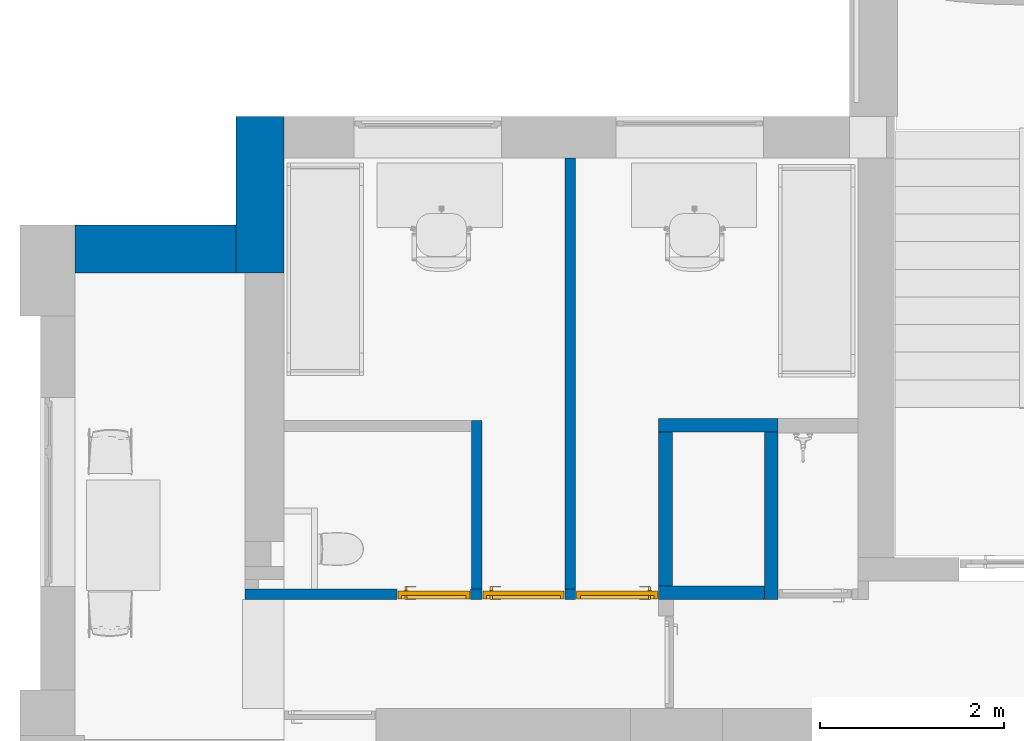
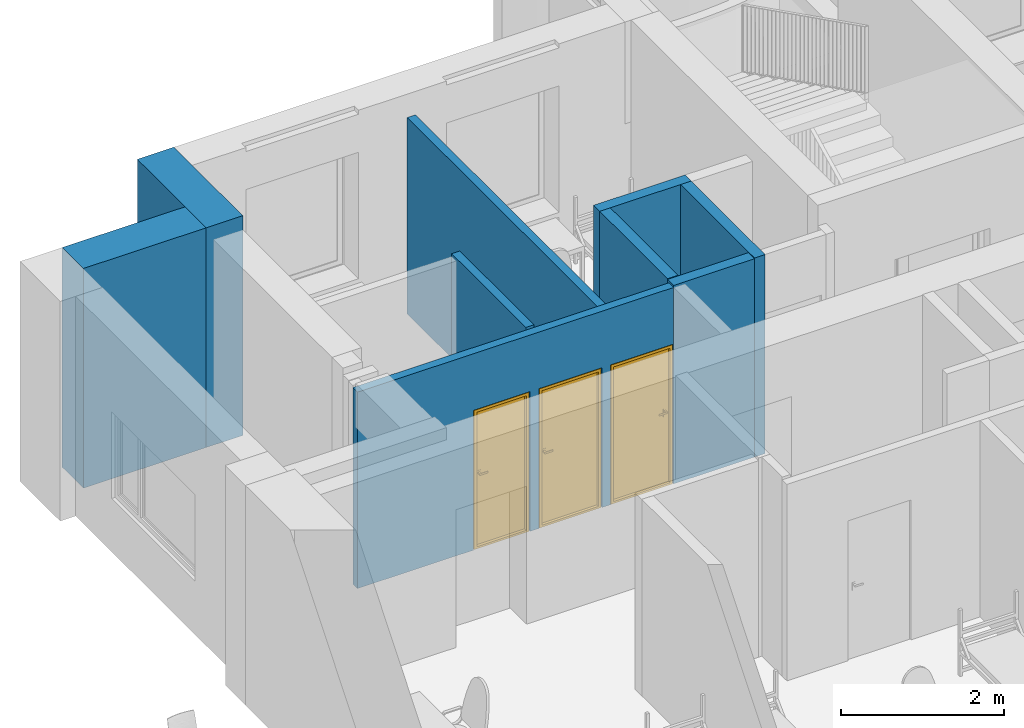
# One storey, part 5 of 48: 9 walls, 3 doors, 6 openings.
"""IFC2X3 building model written with IfcOpenShell, lengths in millimetres."""

from ifc_helpers import new_model, entity, si_unit, converted_unit, derived_unit, direction, frame, frame_2d, origin, place, context, subcontext, project, spatial, rectangle, extrude, faceted_brep, source, transform, mapped, material, material_list, layer, layer_set, layer_usage, type_object, type_shapes, element, fill, save


model = new_model("IFC2X3")

# Units and contexts
model_context = context("Model", 3, precision=0.01, world=origin(), true_north=direction((6.12303176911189e-17, 1.0)))
body_context = subcontext(model_context, "Body", "Model", "MODEL_VIEW")
ifc_project = project(units=[si_unit("LENGTHUNIT", "METRE", prefix="MILLI"), si_unit("AREAUNIT", "SQUARE_METRE"), si_unit("VOLUMEUNIT", "CUBIC_METRE"), converted_unit("PLANEANGLEUNIT", "DEGREE", entity("IfcRatioMeasure", 0.0174532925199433), si_unit("PLANEANGLEUNIT", "RADIAN"), dimensions=[0, 0, 0, 0, 0, 0, 0]), si_unit("MASSUNIT", "GRAM", prefix="KILO"), derived_unit("MASSDENSITYUNIT", [(si_unit("MASSUNIT", "GRAM", prefix="KILO"), 1), (si_unit("LENGTHUNIT", "METRE"), -3)]), si_unit("TIMEUNIT", "SECOND"), si_unit("FREQUENCYUNIT", "HERTZ"), si_unit("THERMODYNAMICTEMPERATUREUNIT", "DEGREE_CELSIUS"), derived_unit("THERMALTRANSMITTANCEUNIT", [(si_unit("MASSUNIT", "GRAM", prefix="KILO"), 1), (si_unit("THERMODYNAMICTEMPERATUREUNIT", "KELVIN"), -1), (si_unit("TIMEUNIT", "SECOND"), -3)]), derived_unit("VOLUMETRICFLOWRATEUNIT", [(si_unit("LENGTHUNIT", "METRE"), 3), (si_unit("TIMEUNIT", "SECOND"), -1)]), si_unit("ELECTRICCURRENTUNIT", "AMPERE"), si_unit("ELECTRICVOLTAGEUNIT", "VOLT"), si_unit("POWERUNIT", "WATT"), si_unit("FORCEUNIT", "NEWTON", prefix="KILO"), si_unit("ILLUMINANCEUNIT", "LUX"), si_unit("LUMINOUSFLUXUNIT", "LUMEN"), si_unit("LUMINOUSINTENSITYUNIT", "CANDELA"), derived_unit("USERDEFINED", [(si_unit("MASSUNIT", "GRAM", prefix="KILO"), -1), (si_unit("LENGTHUNIT", "METRE"), -2), (si_unit("TIMEUNIT", "SECOND"), 3), (si_unit("LUMINOUSFLUXUNIT", "LUMEN"), 1)]), derived_unit("LINEARVELOCITYUNIT", [(si_unit("LENGTHUNIT", "METRE"), 1), (si_unit("TIMEUNIT", "SECOND"), -1)]), si_unit("PRESSUREUNIT", "PASCAL"), derived_unit("USERDEFINED", [(si_unit("LENGTHUNIT", "METRE"), -2), (si_unit("MASSUNIT", "GRAM", prefix="KILO"), 1), (si_unit("TIMEUNIT", "SECOND"), -2)]), derived_unit("LINEARFORCEUNIT", [(si_unit("MASSUNIT", "GRAM", prefix="KILO"), 1), (si_unit("LENGTHUNIT", "METRE"), 1), (si_unit("TIMEUNIT", "SECOND"), -2), (si_unit("LENGTHUNIT", "METRE"), -1)]), derived_unit("PLANARFORCEUNIT", [(si_unit("MASSUNIT", "GRAM", prefix="KILO"), 1), (si_unit("LENGTHUNIT", "METRE"), 1), (si_unit("TIMEUNIT", "SECOND"), -2), (si_unit("LENGTHUNIT", "METRE"), -2)])], contexts=[model_context])

# Site, building, storey
site_placement = place(None, origin())
site = spatial("IfcSite", under=ifc_project, at=site_placement, Name="Default", CompositionType="ELEMENT")
building_placement = place(site_placement, origin())
building = spatial("IfcBuilding", under=site, at=building_placement, Name="SMA ARH", CompositionType="ELEMENT")
storey_placement = place(building_placement, frame((0.0, 0.0, 3300.0)))
storey = spatial("IfcBuildingStorey", under=building, at=storey_placement, Name="2 Korrus", CompositionType="ELEMENT", Elevation=3299.99999999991)

# Walls
ifc_material_1 = material(Name="_ol.olev sein")
ifc_layer_1 = layer(ifc_material_1, 520.0)
ifc_layer_set_1 = layer_set([ifc_layer_1], Name="Basic Wall:Generic - 520mm")
ifc_layer_usage_1 = layer_usage(ifc_layer_set_1, "AXIS2", "NEGATIVE", 260.0)
wall_type_1 = type_object("IfcWallType", Name="Basic Wall:Generic - 520mm", PredefinedType="STANDARD", material=ifc_layer_set_1)
wall_1_placement = place(storey_placement, frame((-100.0, 11510.0, 0.0)))
element("IfcWallStandardCase", 1, at=wall_1_placement, inside=storey, type_object=wall_type_1, material=ifc_layer_usage_1, Name="Basic Wall:Generic - 520mm", ObjectType="Basic Wall:Generic - 520mm", context=body_context, shape_type="SweptSolid", body=[
    extrude(rectangle(XDim=1745.00000000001, YDim=519.999999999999, at=frame_2d((872.500000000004, -8.5265128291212e-14), x_axis=(-1.0, 0.0))), origin(), (0.0, 0.0, 1.0), 3299.99999999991),
])
ifc_layer_usage_2 = layer_usage(ifc_layer_set_1, "AXIS2", "NEGATIVE", 260.0)
wall_2_placement = place(storey_placement, frame((1905.0, 11250.0, 0.0), z_axis=(0.0, 0.0, 1.0), x_axis=(0.0, 1.0, 0.0)))
element("IfcWallStandardCase", 2, at=wall_2_placement, inside=storey, type_object=wall_type_1, material=ifc_layer_usage_2, Name="Basic Wall:Generic - 520mm", ObjectType="Basic Wall:Generic - 520mm", context=body_context, shape_type="SweptSolid", body=[
    extrude(rectangle(XDim=1696.2030428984, YDim=520.0, at=frame_2d((848.101521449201, -8.5265128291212e-14), x_axis=(-1.0, 0.0))), origin(), (0.0, 0.0, 1.0), 3299.99999999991),
])
ifc_material_2 = material(Name="EST. Müüritis. Väikeplokk. Kergkruusplokk")
ifc_layer_2 = layer(ifc_material_2, 150.0)
ifc_layer_set_2 = layer_set([ifc_layer_2], Name="Basic Wall:SS-02_ 150mm šahtide vahesein")
ifc_layer_usage_3 = layer_usage(ifc_layer_set_2, "AXIS2", "POSITIVE", -75.0)
wall_type_2 = type_object("IfcWallType", Name="Basic Wall:SS-02_ 150mm šahtide vahesein", PredefinedType="STANDARD", material=ifc_layer_set_2)
wall_3_placement = place(storey_placement, frame((6235.32130046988, 9595.0, 0.0)))
element("IfcWallStandardCase", 3, at=wall_3_placement, inside=storey, type_object=wall_type_2, material=ifc_layer_usage_3, Name="Basic Wall:SS-02_ 150mm šahtide vahesein", ObjectType="Basic Wall:SS-02_ 150mm šahtide vahesein", context=body_context, shape_type="SweptSolid", body=[
    extrude(rectangle(XDim=1298.40364972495, YDim=150.000000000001, at=frame_2d((649.201824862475, -4.9737991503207e-14), x_axis=(-1.0, 0.0))), origin(), (0.0, 0.0, 1.0), 2989.99999999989),
])

# Wall, opening
ifc_layer_usage_4 = layer_usage(ifc_layer_set_2, "AXIS2", "POSITIVE", -75.0)
wall_4_placement = place(storey_placement, frame((7458.72495019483, 9520.0, 0.0), z_axis=(0.0, 0.0, 1.0), x_axis=(0.0, -1.0, 0.0)))
wall_4 = element("IfcWallStandardCase", 4, at=wall_4_placement, inside=storey, type_object=wall_type_2, material=ifc_layer_usage_4, Name="Basic Wall:SS-02_ 150mm šahtide vahesein", ObjectType="Basic Wall:SS-02_ 150mm šahtide vahesein", context=body_context, shape_type="SweptSolid", body=[
    extrude(rectangle(XDim=1819.99999999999, YDim=150.000000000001, at=frame_2d((909.999999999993, 1.13686837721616e-13), x_axis=(-1.0, 0.0))), origin(), (0.0, 0.0, 1.0), 2989.99999999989),
])
opening_1_placement = place(wall_4_placement, origin())
element("IfcOpeningElement", 5, at=opening_1_placement, cuts=wall_4, Name="Basic Wall:SS-02_ 150mm šahtide vahesein", ObjectType="Opening", context=body_context, shape_type="SweptSolid", body=[
    extrude(rectangle(XDim=2099.99999999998, YDim=116.0, at=frame_2d((0.0, -3.41060513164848e-13), x_axis=(0.0, 1.0))), frame((1762.0, 75.0, 1050.0), z_axis=(0.0, 1.0, 0.0), x_axis=(1.0, 0.0, 0.0)), (0.0, 0.0, 1.0), 800.0),
])

ifc_layer_usage_5 = layer_usage(ifc_layer_set_2, "AXIS2", "POSITIVE", -75.0)
wall_5_placement = place(storey_placement, frame((7383.72495019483, 7775.0, 0.0), z_axis=(0.0, 0.0, 1.0), x_axis=(-1.0, 0.0, 0.0)))
wall_5 = element("IfcWallStandardCase", 6, at=wall_5_placement, inside=storey, type_object=wall_type_2, material=ifc_layer_usage_5, Name="Basic Wall:SS-02_ 150mm šahtide vahesein", ObjectType="Basic Wall:SS-02_ 150mm šahtide vahesein", context=body_context, shape_type="SweptSolid", body=[
    extrude(rectangle(XDim=1148.40364972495, YDim=150.000000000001, at=frame_2d((574.201824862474, 2.41584530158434e-13), x_axis=(-1.0, 0.0))), origin(), (0.0, 0.0, 1.0), 2979.99999999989),
])
opening_2_placement = place(wall_5_placement, origin())
element("IfcOpeningElement", 7, at=opening_2_placement, cuts=wall_5, Name="Basic Wall:SS-02_ 150mm šahtide vahesein", ObjectType="Opening", context=body_context, shape_type="SweptSolid", body=[
    extrude(rectangle(XDim=2099.99999999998, YDim=900.0, at=frame_2d((5.40012479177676e-13, 0.0), x_axis=(0.0, 1.0))), frame((1598.40364972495, -1449.0, 1050.0), z_axis=(0.0, 1.0, 0.0), x_axis=(-1.0, 0.0, 0.0)), (0.0, 0.0, 1.0), 3048.0),
])

ifc_layer_usage_6 = layer_usage(ifc_layer_set_2, "AXIS2", "POSITIVE", -75.0)
wall_6_placement = place(storey_placement, frame((6310.32130046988, 7850.0, 0.0), z_axis=(0.0, 0.0, 1.0), x_axis=(0.0, 1.0, 0.0)))
wall_6 = element("IfcWallStandardCase", 8, at=wall_6_placement, inside=storey, type_object=wall_type_2, material=ifc_layer_usage_6, Name="Basic Wall:SS-02_ 150mm šahtide vahesein", ObjectType="Basic Wall:SS-02_ 150mm šahtide vahesein", context=body_context, shape_type="SweptSolid", body=[
    extrude(rectangle(XDim=1669.99999999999, YDim=150.000000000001, at=frame_2d((834.999999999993, 0.0), x_axis=(-1.0, 0.0))), origin(), (0.0, 0.0, 1.0), 2989.99999999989),
])
opening_3_placement = place(wall_6_placement, origin())
element("IfcOpeningElement", 9, at=opening_3_placement, cuts=wall_6, Name="Basic Wall:SS-02_ 150mm šahtide vahesein", ObjectType="Opening", context=body_context, shape_type="SweptSolid", body=[
    extrude(rectangle(XDim=2099.99999999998, YDim=116.0, at=frame_2d((0.0, 0.0), x_axis=(0.0, 1.0))), frame((-92.0, 75.0, 1050.0), z_axis=(0.0, 1.0, 0.0), x_axis=(-1.0, 0.0, 0.0)), (0.0, 0.0, 1.0), 900.0),
])

# Wall, openings, doors
ifc_material_3 = material(Name="EST. Ehitusplaat. Kipsplaat")
ifc_layer_3 = layer(ifc_material_3, 12.5)
ifc_layer_4 = layer(ifc_material_3, 12.5)
ifc_material_4 = material(Name="EST. Soojustus. Mineraalvill. Default")
ifc_layer_5 = layer(ifc_material_4, 66.0)
ifc_layer_6 = layer(ifc_material_3, 12.5)
ifc_layer_7 = layer(ifc_material_3, 12.5)
ifc_layer_set_3 = layer_set([ifc_layer_3, ifc_layer_4, ifc_layer_5, ifc_layer_6, ifc_layer_7], Name="Basic Wall:SS-05_Kips, 66mm metallkarkass")
ifc_layer_usage_7 = layer_usage(ifc_layer_set_3, "AXIS2", "NEGATIVE", 58.0)
wall_type_3 = type_object("IfcWallType", Name="Basic Wall:SS-05_Kips, 66mm metallkarkass", PredefinedType="STANDARD", material=ifc_layer_set_3)
wall_7_placement = place(storey_placement, frame((6235.32130046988, 7758.0, 0.0), z_axis=(0.0, 0.0, 1.0), x_axis=(-1.0, 0.0, 0.0)))
wall_7 = element("IfcWallStandardCase", 10, at=wall_7_placement, inside=storey, type_object=wall_type_3, material=ifc_layer_usage_7, Name="Basic Wall:SS-05_Kips, 66mm metallkarkass", ObjectType="Basic Wall:SS-05_Kips, 66mm metallkarkass", context=body_context, shape_type="SweptSolid", body=[
    extrude(rectangle(XDim=4490.32130046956, YDim=116.0, at=frame_2d((2245.16065023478, 1.4210854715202e-14), x_axis=(-1.0, 0.0))), origin(), (0.0, 0.0, 1.0), 2949.99999999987),
])
opening_4_placement = place(wall_7_placement, frame((900.0, 58.0, 0.0)))
opening_4 = element("IfcOpeningElement", 11, at=opening_4_placement, cuts=wall_7, Name="SMA_D01, 1-poolne:SU-P-05 - 900x2100 TUBA:1", ObjectType="Opening", context=body_context, shape_type="SweptSolid", body=[
    extrude(rectangle(XDim=2099.99999999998, YDim=900.0, at=frame_2d((1049.99999999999, 450.0), x_axis=(1.0, 0.0))), frame((0.0, 0.0, 0.0), z_axis=(0.0, -1.0, 0.0), x_axis=(0.0, 0.0, 1.0)), (0.0, 0.0, 1.0), 116.0),
])
opening_5_placement = place(wall_7_placement, frame((1916.0, 58.0, 0.0)))
opening_5 = element("IfcOpeningElement", 12, at=opening_5_placement, cuts=wall_7, Name="SMA_D01, 1-poolne:SU-P-05 - 900x2100 TUBA:1", ObjectType="Opening", context=body_context, shape_type="SweptSolid", body=[
    extrude(rectangle(XDim=2099.99999999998, YDim=900.0, at=frame_2d((1049.99999999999, 450.0), x_axis=(1.0, 0.0))), frame((0.0, 0.0, 0.0), z_axis=(0.0, -1.0, 0.0), x_axis=(0.0, 0.0, 1.0)), (0.0, 0.0, 1.0), 116.0),
])
opening_6_placement = place(wall_7_placement, frame((2840.0, 58.0, 0.0)))
opening_6 = element("IfcOpeningElement", 13, at=opening_6_placement, cuts=wall_7, Name="SMA_D01, 1-poolne:SU-P-06 - 800x2100 DUŠŠ:1", ObjectType="Opening", context=body_context, shape_type="SweptSolid", body=[
    extrude(rectangle(XDim=2099.99999999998, YDim=800.0, at=frame_2d((1049.99999999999, 400.0), x_axis=(1.0, 0.0))), frame((0.0, 0.0, 0.0), z_axis=(0.0, -1.0, 0.0), x_axis=(0.0, 0.0, 1.0)), (0.0, 0.0, 1.0), 116.0),
])
ifc_material_5 = material(Name="EST. Metall. Alumiinium. Värvitud. RAL7023 (Concrete grey)")
ifc_material_6 = material(Name="<Unnamed>")
ifc_material_7 = material(Name="EST. Klaas. 3x. Default")
ifc_material_list_1 = material_list([ifc_material_5, ifc_material_6, ifc_material_5, ifc_material_6, ifc_material_6, ifc_material_7, ifc_material_5])
door_style_1 = type_object("IfcDoorStyle", Name="SMA_D01, 1-poolne:SU-P-05 - 900x2100 TUBA", ConstructionType="NOTDEFINED", OperationType="SINGLE_SWING_LEFT", ParameterTakesPrecedence=False, Sizeable=False, material=ifc_material_list_1)
shared_shape_1 = source(origin(), body_context, "Body", "Brep", [
    faceted_brep([(790.0, 6.0, 1112.5), (695.0, 6.0, 1112.5), (695.0, 1.0, 1112.5), (815.0, 1.0, 1112.5), (815.0, 44.0, 1112.5), (790.0, 44.0, 1112.5), (790.0, 6.0, 1087.5), (790.0, 44.0, 1087.5), (815.0, 44.0, 1087.5), (815.0, 1.0, 1087.5), (695.0, 1.0, 1087.5), (695.0, 6.0, 1087.5)], [[[0, 1, 2, 3, 4, 5]], [[6, 7, 8, 9, 10, 11]], [[5, 7, 6, 0]], [[4, 8, 7, 5]], [[3, 9, 8, 4]], [[2, 10, 9, 3]], [[1, 11, 10, 2]], [[0, 6, 11, 1]]]),
    faceted_brep([(777.500000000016, 44.0, 1137.5), (827.500000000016, 44.0, 1137.5), (827.500000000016, 46.0, 1137.5), (777.500000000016, 46.0, 1137.5), (777.500000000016, 44.0, 1017.5), (777.500000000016, 46.0, 1017.5), (827.500000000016, 46.0, 1017.5), (827.500000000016, 44.0, 1017.5)], [[[0, 1, 2, 3]], [[4, 5, 6, 7]], [[3, 5, 4, 0]], [[2, 6, 5, 3]], [[1, 7, 6, 2]], [[0, 4, 7, 1]]]),
    faceted_brep([(790.0, 136.0, 1112.5), (790.0, 98.0, 1112.5), (815.0, 98.0, 1112.5), (815.0, 141.0, 1112.5), (695.0, 141.0, 1112.5), (695.0, 136.0, 1112.5), (790.0, 136.0, 1087.5), (695.0, 136.0, 1087.5), (695.0, 141.0, 1087.5), (815.0, 141.0, 1087.5), (815.0, 98.0, 1087.5), (790.0, 98.0, 1087.5)], [[[0, 1, 2, 3, 4, 5]], [[6, 7, 8, 9, 10, 11]], [[1, 0, 6, 11]], [[2, 1, 11, 10]], [[3, 2, 10, 9]], [[4, 3, 9, 8]], [[5, 4, 8, 7]], [[0, 5, 7, 6]]]),
    faceted_brep([(777.500000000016, 98.0, 1137.5), (777.500000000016, 96.0, 1137.5), (827.500000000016, 96.0, 1137.5), (827.500000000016, 98.0, 1137.5), (777.500000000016, 98.0, 1017.5), (827.500000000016, 98.0, 1017.5), (827.500000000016, 96.0, 1017.5), (777.500000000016, 96.0, 1017.5)], [[[0, 1, 2, 3]], [[4, 5, 6, 7]], [[1, 0, 4, 7]], [[2, 1, 7, 6]], [[3, 2, 6, 5]], [[0, 3, 5, 4]]]),
    faceted_brep([(50.0, 6.0, 30.0), (50.0, 46.0, 30.0), (50.0, 46.0, 20.0), (50.0, 46.0, 0.0), (50.0, 6.0, 0.0), (850.0, 6.0, 30.0), (850.0, 6.0, 0.0), (850.0, 46.0, 0.0), (850.0, 46.0, 20.0), (850.0, 46.0, 30.0), (35.0, 46.0, 0.0), (35.0, 96.0, 0.0), (865.0, 96.0, 0.0), (865.0, 46.0, 0.0), (35.0, 96.0, 20.0), (35.0, 46.0, 20.0), (865.0, 96.0, 20.0), (865.0, 46.0, 20.0)], [[[0, 1, 2, 3, 4]], [[5, 6, 7, 8, 9]], [[4, 6, 5, 0]], [[3, 10, 11, 12, 13, 7, 6, 4]], [[9, 8, 2, 1]], [[0, 5, 9, 1]], [[14, 11, 10, 15]], [[16, 17, 13, 12]], [[15, 2, 8, 17, 16, 14]], [[10, 3, 2, 15]], [[14, 16, 12, 11]], [[17, 8, 7, 13]]]),
    faceted_brep([(10.0, 6.0, 0.0), (10.0, 96.0, 0.0), (35.0, 96.0, 0.0), (35.0, 46.0, 0.0), (50.0, 46.0, 0.0), (50.0, 6.0, 0.0), (50.0, 6.0, 2050.0), (850.0, 6.0, 2050.0), (850.0, 6.0, 0.0), (890.0, 6.0, 0.0), (890.0, 6.0, 2090.0), (10.0, 6.0, 2090.0), (50.0, 46.0, 2050.0), (35.0, 46.0, 2065.0), (865.0, 46.0, 2065.0), (865.0, 46.0, 0.0), (850.0, 46.0, 0.0), (850.0, 46.0, 2050.0), (35.0, 96.0, 2065.0), (10.0, 96.0, 2090.0), (890.0, 96.0, 2090.0), (890.0, 96.0, 0.0), (865.0, 96.0, 0.0), (865.0, 96.0, 2065.0)], [[[0, 1, 2, 3, 4, 5]], [[5, 6, 7, 8, 9, 10, 11, 0]], [[4, 12, 6, 5]], [[3, 13, 14, 15, 16, 17, 12, 4]], [[2, 18, 13, 3]], [[1, 19, 20, 21, 22, 23, 18, 2]], [[0, 11, 19, 1]], [[9, 21, 20, 10]], [[8, 16, 15, 22, 21, 9]], [[7, 17, 16, 8]], [[14, 23, 22, 15]], [[6, 12, 17, 7]], [[13, 18, 23, 14]], [[10, 20, 19, 11]]]),
    faceted_brep([(865.0, 46.0, 2065.0), (35.0, 46.0, 2065.0), (35.0, 46.0, 20.0), (865.0, 46.0, 20.0), (865.0, 96.0, 2065.0), (865.0, 96.0, 20.0), (35.0, 96.0, 20.0), (35.0, 96.0, 2065.0)], [[[0, 1, 2, 3]], [[4, 5, 6, 7]], [[3, 5, 4, 0]], [[2, 6, 5, 3]], [[1, 7, 6, 2]], [[0, 4, 7, 1]]]),
])
type_shapes(door_style_1, [shared_shape_1])
door_1_placement = place(opening_4_placement, frame((0.0, 0.0, 0.0), z_axis=(0.0, 0.0, 1.0), x_axis=(-1.0, 0.0, 0.0)))
door_1 = element("IfcDoor", 14, at=door_1_placement, inside=storey, type_object=door_style_1, material=ifc_material_5, Name="SMA_D01, 1-poolne:SU-P-05 - 900x2100 TUBA", ObjectType="SMA_D01, 1-poolne:SU-P-05 - 900x2100 TUBA", OverallHeight=2099.99999999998, OverallWidth=900.0, context=body_context, shape_type="MappedRepresentation", body=[
    mapped(shared_shape_1, transform((0.0, 0.0, 0.0), scale=1.0)),
])
fill(opening_4, door_1)
ifc_material_list_2 = material_list([ifc_material_6, ifc_material_7, ifc_material_6, ifc_material_5, ifc_material_5, ifc_material_5, ifc_material_6])
door_style_2 = type_object("IfcDoorStyle", Name="SMA_D01, 1-poolne:SU-P-05 - 900x2100 TUBA", ConstructionType="NOTDEFINED", OperationType="SINGLE_SWING_RIGHT", ParameterTakesPrecedence=False, Sizeable=False, material=ifc_material_list_2)
shared_shape_2 = source(origin(), body_context, "Body", "Brep", [
    faceted_brep([(110.0, 6.0, 1112.5), (110.0, 44.0, 1112.5), (85.0, 44.0, 1112.5), (85.0, 1.0, 1112.5), (205.0, 1.0, 1112.5), (205.0, 6.0, 1112.5), (110.0, 6.0, 1087.5), (205.0, 6.0, 1087.5), (205.0, 1.0, 1087.5), (85.0, 1.0, 1087.5), (85.0, 44.0, 1087.5), (110.0, 44.0, 1087.5)], [[[0, 1, 2, 3, 4, 5]], [[6, 7, 8, 9, 10, 11]], [[1, 0, 6, 11]], [[2, 1, 11, 10]], [[3, 2, 10, 9]], [[4, 3, 9, 8]], [[5, 4, 8, 7]], [[0, 5, 7, 6]]]),
    faceted_brep([(122.5, 44.0, 1137.5), (122.5, 46.0, 1137.5), (72.5000000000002, 46.0, 1137.5), (72.5000000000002, 44.0, 1137.5), (122.5, 44.0, 1017.5), (72.5000000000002, 44.0, 1017.5), (72.5000000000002, 46.0, 1017.5), (122.5, 46.0, 1017.5)], [[[0, 1, 2, 3]], [[4, 5, 6, 7]], [[1, 0, 4, 7]], [[2, 1, 7, 6]], [[3, 2, 6, 5]], [[0, 3, 5, 4]]]),
    faceted_brep([(110.0, 136.0, 1112.5), (205.0, 136.0, 1112.5), (205.0, 141.0, 1112.5), (85.0, 141.0, 1112.5), (85.0, 98.0, 1112.5), (110.0, 98.0, 1112.5), (110.0, 136.0, 1087.5), (110.0, 98.0, 1087.5), (85.0, 98.0, 1087.5), (85.0, 141.0, 1087.5), (205.0, 141.0, 1087.5), (205.0, 136.0, 1087.5)], [[[0, 1, 2, 3, 4, 5]], [[6, 7, 8, 9, 10, 11]], [[5, 7, 6, 0]], [[4, 8, 7, 5]], [[3, 9, 8, 4]], [[2, 10, 9, 3]], [[1, 11, 10, 2]], [[0, 6, 11, 1]]]),
    faceted_brep([(122.5, 98.0, 1137.5), (72.5000000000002, 98.0, 1137.5), (72.5000000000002, 96.0, 1137.5), (122.5, 96.0, 1137.5), (122.5, 98.0, 1017.5), (122.5, 96.0, 1017.5), (72.5000000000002, 96.0, 1017.5), (72.5000000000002, 98.0, 1017.5)], [[[0, 1, 2, 3]], [[4, 5, 6, 7]], [[3, 5, 4, 0]], [[2, 6, 5, 3]], [[1, 7, 6, 2]], [[0, 4, 7, 1]]]),
    faceted_brep([(850.0, 6.0, 30.0), (850.0, 6.0, 0.0), (850.0, 46.0, 0.0), (850.0, 46.0, 20.0), (850.0, 46.0, 30.0), (50.0, 6.0, 30.0), (50.0, 46.0, 30.0), (50.0, 46.0, 20.0), (50.0, 46.0, 0.0), (50.0, 6.0, 0.0), (35.0, 46.0, 0.0), (35.0, 96.0, 0.0), (865.0, 96.0, 0.0), (865.0, 46.0, 0.0), (865.0, 96.0, 20.0), (865.0, 46.0, 20.0), (35.0, 96.0, 20.0), (35.0, 46.0, 20.0)], [[[0, 1, 2, 3, 4]], [[5, 6, 7, 8, 9]], [[1, 0, 5, 9]], [[2, 1, 9, 8, 10, 11, 12, 13]], [[6, 4, 3, 7]], [[0, 4, 6, 5]], [[14, 15, 13, 12]], [[16, 11, 10, 17]], [[15, 14, 16, 17, 7, 3]], [[13, 15, 3, 2]], [[14, 12, 11, 16]], [[17, 10, 8, 7]]]),
    faceted_brep([(890.0, 6.0, 0.0), (850.0, 6.0, 0.0), (850.0, 46.0, 0.0), (865.0, 46.0, 0.0), (865.0, 96.0, 0.0), (890.0, 96.0, 0.0), (890.0, 6.0, 2090.0), (10.0, 6.0, 2090.0), (10.0, 6.0, 0.0), (50.0, 6.0, 0.0), (50.0, 6.0, 2050.0), (850.0, 6.0, 2050.0), (850.0, 46.0, 2050.0), (50.0, 46.0, 2050.0), (50.0, 46.0, 0.0), (35.0, 46.0, 0.0), (35.0, 46.0, 2065.0), (865.0, 46.0, 2065.0), (865.0, 96.0, 2065.0), (35.0, 96.0, 2065.0), (35.0, 96.0, 0.0), (10.0, 96.0, 0.0), (10.0, 96.0, 2090.0), (890.0, 96.0, 2090.0)], [[[0, 1, 2, 3, 4, 5]], [[1, 0, 6, 7, 8, 9, 10, 11]], [[2, 1, 11, 12]], [[3, 2, 12, 13, 14, 15, 16, 17]], [[4, 3, 17, 18]], [[5, 4, 18, 19, 20, 21, 22, 23]], [[0, 5, 23, 6]], [[8, 7, 22, 21]], [[9, 8, 21, 20, 15, 14]], [[10, 9, 14, 13]], [[16, 15, 20, 19]], [[11, 10, 13, 12]], [[17, 16, 19, 18]], [[7, 6, 23, 22]]]),
    faceted_brep([(35.0, 46.0, 2065.0), (35.0, 46.0, 20.0), (865.0, 46.0, 20.0), (865.0, 46.0, 2065.0), (35.0, 96.0, 2065.0), (865.0, 96.0, 2065.0), (865.0, 96.0, 20.0), (35.0, 96.0, 20.0)], [[[0, 1, 2, 3]], [[4, 5, 6, 7]], [[1, 0, 4, 7]], [[2, 1, 7, 6]], [[3, 2, 6, 5]], [[0, 3, 5, 4]]]),
])
type_shapes(door_style_2, [shared_shape_2])
door_2_placement = place(opening_5_placement, frame((0.0, 0.0, 0.0), z_axis=(0.0, 0.0, 1.0), x_axis=(-1.0, 0.0, 0.0)))
door_2 = element("IfcDoor", 15, at=door_2_placement, inside=storey, type_object=door_style_2, material=ifc_material_5, Name="SMA_D01, 1-poolne:SU-P-05 - 900x2100 TUBA", ObjectType="SMA_D01, 1-poolne:SU-P-05 - 900x2100 TUBA", OverallHeight=2099.99999999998, OverallWidth=900.0, context=body_context, shape_type="MappedRepresentation", body=[
    mapped(shared_shape_2, transform((0.0, 0.0, 0.0), scale=1.0)),
])
fill(opening_5, door_2)
ifc_material_list_3 = material_list([ifc_material_5, ifc_material_7, ifc_material_6, ifc_material_6, ifc_material_5, ifc_material_6, ifc_material_5])
door_style_3 = type_object("IfcDoorStyle", Name="SMA_D01, 1-poolne:SU-P-06 - 800x2100 DUŠŠ", ConstructionType="NOTDEFINED", OperationType="NOTDEFINED", ParameterTakesPrecedence=False, Sizeable=False, material=ifc_material_list_3)
shared_shape_3 = source(origin(), body_context, "Body", "Brep", [
    faceted_brep([(110.0, 6.0, 1112.5), (110.0, 44.0, 1112.5), (85.0, 44.0, 1112.5), (85.0, 1.0, 1112.5), (205.0, 1.0, 1112.5), (205.0, 6.0, 1112.5), (110.0, 6.0, 1087.5), (205.0, 6.0, 1087.5), (205.0, 1.0, 1087.5), (85.0, 1.0, 1087.5), (85.0, 44.0, 1087.5), (110.0, 44.0, 1087.5)], [[[0, 1, 2, 3, 4, 5]], [[6, 7, 8, 9, 10, 11]], [[1, 0, 6, 11]], [[2, 1, 11, 10]], [[3, 2, 10, 9]], [[4, 3, 9, 8]], [[5, 4, 8, 7]], [[0, 5, 7, 6]]]),
    faceted_brep([(122.5, 44.0, 1137.5), (122.5, 46.0, 1137.5), (72.4999999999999, 46.0, 1137.5), (72.4999999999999, 44.0, 1137.5), (122.5, 44.0, 1017.5), (72.4999999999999, 44.0, 1017.5), (72.4999999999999, 46.0, 1017.5), (122.5, 46.0, 1017.5)], [[[0, 1, 2, 3]], [[4, 5, 6, 7]], [[1, 0, 4, 7]], [[2, 1, 7, 6]], [[3, 2, 6, 5]], [[0, 3, 5, 4]]]),
    faceted_brep([(110.0, 136.0, 1112.5), (205.0, 136.0, 1112.5), (205.0, 141.0, 1112.5), (85.0, 141.0, 1112.5), (85.0, 98.0, 1112.5), (110.0, 98.0, 1112.5), (110.0, 136.0, 1087.5), (110.0, 98.0, 1087.5), (85.0, 98.0, 1087.5), (85.0, 141.0, 1087.5), (205.0, 141.0, 1087.5), (205.0, 136.0, 1087.5)], [[[0, 1, 2, 3, 4, 5]], [[6, 7, 8, 9, 10, 11]], [[5, 7, 6, 0]], [[4, 8, 7, 5]], [[3, 9, 8, 4]], [[2, 10, 9, 3]], [[1, 11, 10, 2]], [[0, 6, 11, 1]]]),
    faceted_brep([(122.5, 98.0, 1137.5), (72.4999999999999, 98.0, 1137.5), (72.4999999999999, 96.0, 1137.5), (122.5, 96.0, 1137.5), (122.5, 98.0, 1017.5), (122.5, 96.0, 1017.5), (72.4999999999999, 96.0, 1017.5), (72.4999999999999, 98.0, 1017.5)], [[[0, 1, 2, 3]], [[4, 5, 6, 7]], [[3, 5, 4, 0]], [[2, 6, 5, 3]], [[1, 7, 6, 2]], [[0, 4, 7, 1]]]),
    faceted_brep([(750.0, 6.0, 30.0), (750.0, 6.0, 0.0), (750.0, 46.0, 0.0), (750.0, 46.0, 20.0), (750.0, 46.0, 30.0), (50.0, 6.0, 30.0), (50.0, 46.0, 30.0), (50.0, 46.0, 20.0), (50.0, 46.0, 0.0), (50.0, 6.0, 0.0), (35.0, 46.0, 0.0), (35.0, 96.0, 0.0), (765.0, 96.0, 0.0), (765.0, 46.0, 0.0), (765.0, 96.0, 20.0), (765.0, 46.0, 20.0), (35.0, 96.0, 20.0), (35.0, 46.0, 20.0)], [[[0, 1, 2, 3, 4]], [[5, 6, 7, 8, 9]], [[1, 0, 5, 9]], [[2, 1, 9, 8, 10, 11, 12, 13]], [[6, 4, 3, 7]], [[0, 4, 6, 5]], [[14, 15, 13, 12]], [[16, 11, 10, 17]], [[15, 14, 16, 17, 7, 3]], [[13, 15, 3, 2]], [[14, 12, 11, 16]], [[17, 10, 8, 7]]]),
    faceted_brep([(790.0, 6.0, 0.0), (750.0, 6.0, 0.0), (750.0, 46.0, 0.0), (765.0, 46.0, 0.0), (765.0, 96.0, 0.0), (790.0, 96.0, 0.0), (790.0, 6.0, 2090.0), (10.0, 6.0, 2090.0), (10.0, 6.0, 0.0), (50.0, 6.0, 0.0), (50.0, 6.0, 2050.0), (750.0, 6.0, 2050.0), (750.0, 46.0, 2050.0), (50.0, 46.0, 2050.0), (50.0, 46.0, 0.0), (35.0, 46.0, 0.0), (35.0, 46.0, 2065.0), (765.0, 46.0, 2065.0), (765.0, 96.0, 2065.0), (35.0, 96.0, 2065.0), (35.0, 96.0, 0.0), (10.0, 96.0, 0.0), (10.0, 96.0, 2090.0), (790.0, 96.0, 2090.0)], [[[0, 1, 2, 3, 4, 5]], [[1, 0, 6, 7, 8, 9, 10, 11]], [[2, 1, 11, 12]], [[3, 2, 12, 13, 14, 15, 16, 17]], [[4, 3, 17, 18]], [[5, 4, 18, 19, 20, 21, 22, 23]], [[0, 5, 23, 6]], [[8, 7, 22, 21]], [[9, 8, 21, 20, 15, 14]], [[10, 9, 14, 13]], [[16, 15, 20, 19]], [[11, 10, 13, 12]], [[17, 16, 19, 18]], [[7, 6, 23, 22]]]),
    faceted_brep([(35.0, 46.0, 2065.0), (35.0, 46.0, 20.0), (765.0, 46.0, 20.0), (765.0, 46.0, 2065.0), (35.0, 96.0, 2065.0), (765.0, 96.0, 2065.0), (765.0, 96.0, 20.0), (35.0, 96.0, 20.0)], [[[0, 1, 2, 3]], [[4, 5, 6, 7]], [[1, 0, 4, 7]], [[2, 1, 7, 6]], [[3, 2, 6, 5]], [[0, 3, 5, 4]]]),
])
type_shapes(door_style_3, [shared_shape_3])
door_3_placement = place(opening_6_placement, frame((0.0, 0.0, 0.0), z_axis=(0.0, 0.0, 1.0), x_axis=(-1.0, 0.0, 0.0)))
door_3 = element("IfcDoor", 16, at=door_3_placement, inside=storey, type_object=door_style_3, material=ifc_material_5, Name="SMA_D01, 1-poolne:SU-P-06 - 800x2100 DUŠŠ", ObjectType="SMA_D01, 1-poolne:SU-P-06 - 800x2100 DUŠŠ", OverallHeight=2099.99999999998, OverallWidth=800.0, context=body_context, shape_type="MappedRepresentation", body=[
    mapped(shared_shape_3, transform((0.0, 0.0, 0.0), scale=1.0)),
])
fill(opening_6, door_3)

# Walls
ifc_layer_usage_8 = layer_usage(ifc_layer_set_3, "AXIS2", "NEGATIVE", 58.0)
wall_8_placement = place(storey_placement, frame((4261.32130046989, 9643.50000000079, 0.0), z_axis=(0.0, 0.0, 1.0), x_axis=(0.0, -1.0, 0.0)))
element("IfcWallStandardCase", 17, at=wall_8_placement, inside=storey, type_object=wall_type_3, material=ifc_layer_usage_8, Name="Basic Wall:SS-05_Kips, 66mm metallkarkass", ObjectType="Basic Wall:SS-05_Kips, 66mm metallkarkass", context=body_context, shape_type="SweptSolid", body=[
    extrude(rectangle(XDim=1827.49999999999, YDim=116.0, at=frame_2d((913.749999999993, 6.75015598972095e-14), x_axis=(-1.0, 0.0))), origin(), (0.0, 0.0, 1.0), 2989.99999999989),
])
ifc_layer_usage_9 = layer_usage(ifc_layer_set_3, "AXIS2", "NEGATIVE", 58.0)
wall_9_placement = place(storey_placement, frame((5277.32130046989, 12496.2030428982, 0.0), z_axis=(0.0, 0.0, 1.0), x_axis=(0.0, -1.0, 0.0)))
element("IfcWallStandardCase", 18, at=wall_9_placement, inside=storey, type_object=wall_type_3, material=ifc_layer_usage_9, Name="Basic Wall:SS-05_Kips, 66mm metallkarkass", ObjectType="Basic Wall:SS-05_Kips, 66mm metallkarkass", context=body_context, shape_type="SweptSolid", body=[
    extrude(rectangle(XDim=4680.20304289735, YDim=116.0, at=frame_2d((2340.10152144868, -3.90798504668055e-14), x_axis=(-1.0, 0.0))), origin(), (0.0, 0.0, 1.0), 2949.99999999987),
])

save(model, "model.ifc")
